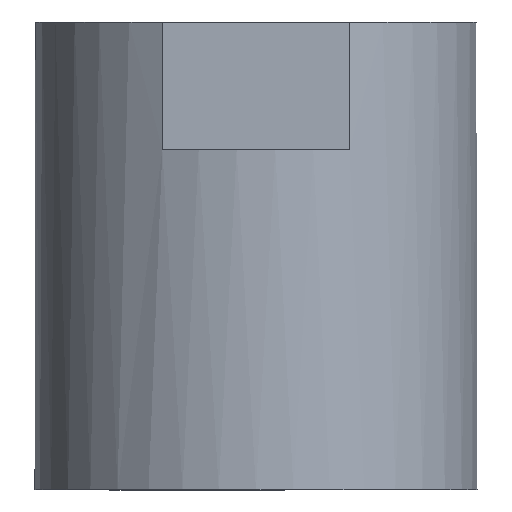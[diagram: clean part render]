
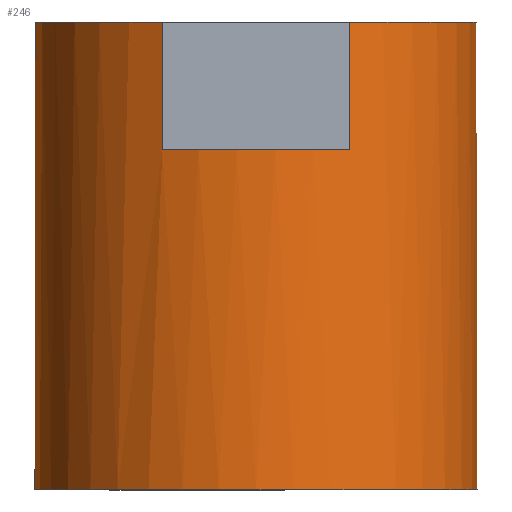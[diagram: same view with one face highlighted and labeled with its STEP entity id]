
A CAD part, left-side view. The second image highlights one B-rep face of the part: STEP entity #246.
In plain terms, the highlighted cylindrical face has radius 3.302 mm (diameter 6.604 mm), a full revolution.
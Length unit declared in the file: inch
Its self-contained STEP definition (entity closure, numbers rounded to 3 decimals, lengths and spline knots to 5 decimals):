
#10 = CARTESIAN_POINT ( 'NONE',  ( 1.27866, -0.30146, 0. ) ) ;
#12 = EDGE_CURVE ( 'NONE', #305, #323, #272, .T. ) ;
#14 = VERTEX_POINT ( 'NONE', #207 ) ;
#15 = CARTESIAN_POINT ( 'NONE',  ( 1.39646, -0.24646, -0.075 ) ) ;
#18 = DIRECTION ( 'NONE',  ( -1., 0., 0. ) ) ;
#22 = ORIENTED_EDGE ( 'NONE', *, *, #325, .F. ) ;
#24 = CARTESIAN_POINT ( 'NONE',  ( 1.39646, -0.24646, 0. ) ) ;
#25 = CIRCLE ( 'NONE', #66, 0.13 ) ;
#30 = CIRCLE ( 'NONE', #187, 0.13 ) ;
#33 = AXIS2_PLACEMENT_3D ( 'NONE', #384, #135, #18 ) ;
#42 = ORIENTED_EDGE ( 'NONE', *, *, #295, .T. ) ;
#49 = DIRECTION ( 'NONE',  ( 1., 0., 0. ) ) ;
#50 = CIRCLE ( 'NONE', #88, 0.13 ) ;
#58 = VERTEX_POINT ( 'NONE', #346 ) ;
#60 = EDGE_CURVE ( 'NONE', #370, #87, #315, .T. ) ;
#66 = AXIS2_PLACEMENT_3D ( 'NONE', #252, #320, #326 ) ;
#68 = DIRECTION ( 'NONE',  ( 0., 0., -1. ) ) ;
#77 = LINE ( 'NONE', #379, #297 ) ;
#82 = FACE_OUTER_BOUND ( 'NONE', #126, .T. ) ;
#87 = VERTEX_POINT ( 'NONE', #10 ) ;
#88 = AXIS2_PLACEMENT_3D ( 'NONE', #166, #171, #329 ) ;
#92 = CIRCLE ( 'NONE', #33, 0.13 ) ;
#103 = VERTEX_POINT ( 'NONE', #359 ) ;
#106 = CARTESIAN_POINT ( 'NONE',  ( 1.51425, -0.19146, -0.60339 ) ) ;
#109 = ORIENTED_EDGE ( 'NONE', *, *, #142, .T. ) ;
#121 = CYLINDRICAL_SURFACE ( 'NONE', #341, 0.13 ) ;
#122 = VECTOR ( 'NONE', #176, 39.37008 ) ;
#126 = EDGE_LOOP ( 'NONE', ( #244 ) ) ;
#128 = DIRECTION ( 'NONE',  ( -1., 0., 0. ) ) ;
#133 = DIRECTION ( 'NONE',  ( 0., 0., 1. ) ) ;
#134 = CARTESIAN_POINT ( 'NONE',  ( 1.51425, -0.30146, -0.075 ) ) ;
#135 = DIRECTION ( 'NONE',  ( 0., 0., -1. ) ) ;
#142 = EDGE_CURVE ( 'NONE', #180, #58, #77, .T. ) ;
#151 = EDGE_CURVE ( 'NONE', #14, #305, #30, .T. ) ;
#158 = DIRECTION ( 'NONE',  ( 0., 0., 1. ) ) ;
#160 = CARTESIAN_POINT ( 'NONE',  ( 1.39646, -0.24646, -0.60339 ) ) ;
#166 = CARTESIAN_POINT ( 'NONE',  ( 1.39646, -0.24646, 0. ) ) ;
#168 = ORIENTED_EDGE ( 'NONE', *, *, #60, .F. ) ;
#171 = DIRECTION ( 'NONE',  ( 0., 0., 1. ) ) ;
#176 = DIRECTION ( 'NONE',  ( 0., 0., 1. ) ) ;
#180 = VERTEX_POINT ( 'NONE', #247 ) ;
#187 = AXIS2_PLACEMENT_3D ( 'NONE', #15, #68, #128 ) ;
#191 = CARTESIAN_POINT ( 'NONE',  ( 1.51425, -0.19146, 0. ) ) ;
#201 = ORIENTED_EDGE ( 'NONE', *, *, #256, .F. ) ;
#206 = EDGE_CURVE ( 'NONE', #103, #103, #92, .T. ) ;
#207 = CARTESIAN_POINT ( 'NONE',  ( 1.51425, -0.19146, -0.075 ) ) ;
#212 = DIRECTION ( 'NONE',  ( 0., 0., 1. ) ) ;
#220 = LINE ( 'NONE', #106, #290 ) ;
#221 = VECTOR ( 'NONE', #245, 39.37008 ) ;
#227 = VERTEX_POINT ( 'NONE', #191 ) ;
#242 = ORIENTED_EDGE ( 'NONE', *, *, #12, .T. ) ;
#244 = ORIENTED_EDGE ( 'NONE', *, *, #206, .F. ) ;
#245 = DIRECTION ( 'NONE',  ( 0., 0., 1. ) ) ;
#246 = ADVANCED_FACE ( 'NONE', ( #339, #82 ), #121, .T. ) ;
#247 = CARTESIAN_POINT ( 'NONE',  ( 1.27866, -0.19146, -0.075 ) ) ;
#252 = CARTESIAN_POINT ( 'NONE',  ( 1.39646, -0.24646, -0.075 ) ) ;
#256 = EDGE_CURVE ( 'NONE', #87, #323, #303, .T. ) ;
#257 = CARTESIAN_POINT ( 'NONE',  ( 1.51425, -0.30146, 0. ) ) ;
#272 = LINE ( 'NONE', #338, #122 ) ;
#274 = ORIENTED_EDGE ( 'NONE', *, *, #307, .F. ) ;
#278 = ORIENTED_EDGE ( 'NONE', *, *, #151, .T. ) ;
#290 = VECTOR ( 'NONE', #291, 39.37008 ) ;
#291 = DIRECTION ( 'NONE',  ( 0., 0., 1. ) ) ;
#295 = EDGE_CURVE ( 'NONE', #370, #180, #25, .T. ) ;
#297 = VECTOR ( 'NONE', #212, 39.37008 ) ;
#303 = CIRCLE ( 'NONE', #331, 0.13 ) ;
#305 = VERTEX_POINT ( 'NONE', #134 ) ;
#307 = EDGE_CURVE ( 'NONE', #14, #227, #220, .T. ) ;
#315 = LINE ( 'NONE', #378, #221 ) ;
#320 = DIRECTION ( 'NONE',  ( 0., 0., -1. ) ) ;
#323 = VERTEX_POINT ( 'NONE', #257 ) ;
#325 = EDGE_CURVE ( 'NONE', #227, #58, #50, .T. ) ;
#326 = DIRECTION ( 'NONE',  ( -1., 0., 0. ) ) ;
#329 = DIRECTION ( 'NONE',  ( 1., 0., 0. ) ) ;
#331 = AXIS2_PLACEMENT_3D ( 'NONE', #24, #158, #49 ) ;
#335 = EDGE_LOOP ( 'NONE', ( #168, #42, #109, #22, #274, #278, #242, #201 ) ) ;
#338 = CARTESIAN_POINT ( 'NONE',  ( 1.51425, -0.30146, -0.60339 ) ) ;
#339 = FACE_OUTER_BOUND ( 'NONE', #335, .T. ) ;
#341 = AXIS2_PLACEMENT_3D ( 'NONE', #160, #133, #353 ) ;
#346 = CARTESIAN_POINT ( 'NONE',  ( 1.27866, -0.19146, 0. ) ) ;
#353 = DIRECTION ( 'NONE',  ( 1., 0., 0. ) ) ;
#359 = CARTESIAN_POINT ( 'NONE',  ( 1.26646, -0.24646, -0.275 ) ) ;
#360 = CARTESIAN_POINT ( 'NONE',  ( 1.27866, -0.30146, -0.075 ) ) ;
#370 = VERTEX_POINT ( 'NONE', #360 ) ;
#378 = CARTESIAN_POINT ( 'NONE',  ( 1.27866, -0.30146, -0.60339 ) ) ;
#379 = CARTESIAN_POINT ( 'NONE',  ( 1.27866, -0.19146, -0.60339 ) ) ;
#384 = CARTESIAN_POINT ( 'NONE',  ( 1.39646, -0.24646, -0.275 ) ) ;
